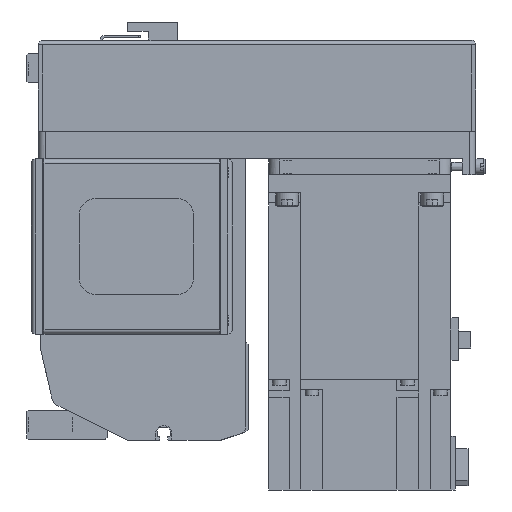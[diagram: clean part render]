
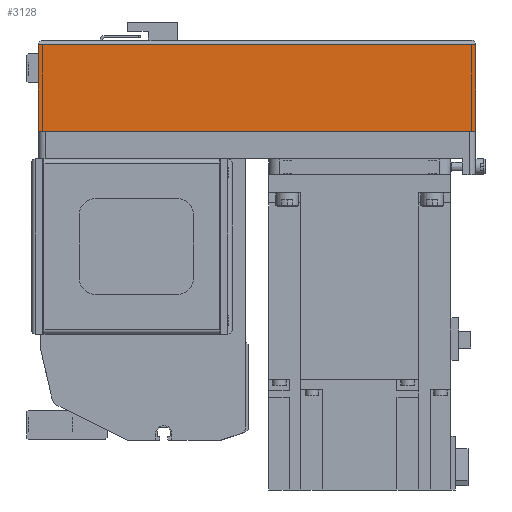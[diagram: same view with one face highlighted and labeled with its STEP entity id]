
A CAD part, left-side view. The second image highlights one B-rep face of the part: STEP entity #3128.
In plain terms, the highlighted planar face has unit normal (-1, 0, 0) as drawn and (0, -1, 0) by its records, which use the part's own axes.
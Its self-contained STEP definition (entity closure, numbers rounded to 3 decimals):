
#3128 = ADVANCED_FACE( '', ( #6524 ), #6525, .T. );
#6524 = FACE_OUTER_BOUND( '', #9956, .T. );
#6525 = PLANE( '', #9957 );
#9956 = EDGE_LOOP( '', ( #18788, #18789, #18790, #18791 ) );
#9957 = AXIS2_PLACEMENT_3D( '', #18792, #18793, #18794 );
#18788 = ORIENTED_EDGE( '', *, *, #22200, .F. );
#18789 = ORIENTED_EDGE( '', *, *, #22733, .F. );
#18790 = ORIENTED_EDGE( '', *, *, #22425, .T. );
#18791 = ORIENTED_EDGE( '', *, *, #21854, .T. );
#18792 = CARTESIAN_POINT( '', ( -192., -40., -12.1 ) );
#18793 = DIRECTION( '', ( 0., -1., 0. ) );
#18794 = DIRECTION( '', ( 0., 0., -1. ) );
#21854 = EDGE_CURVE( '', #23542, #24645, #26953, .T. );
#22200 = EDGE_CURVE( '', #23169, #24645, #27399, .T. );
#22425 = EDGE_CURVE( '', #25260, #23542, #27687, .T. );
#22733 = EDGE_CURVE( '', #25260, #23169, #28050, .T. );
#23169 = VERTEX_POINT( '', #28572 );
#23542 = VERTEX_POINT( '', #29064 );
#24645 = VERTEX_POINT( '', #30639 );
#25260 = VERTEX_POINT( '', #31590 );
#26953 = LINE( '', #34045, #34046 );
#27399 = LINE( '', #34696, #34697 );
#27687 = LINE( '', #35178, #35179 );
#28050 = LINE( '', #35893, #35894 );
#28572 = CARTESIAN_POINT( '', ( 0., -40., -12.1 ) );
#29064 = CARTESIAN_POINT( '', ( -192., -40., -50. ) );
#30639 = CARTESIAN_POINT( '', ( 0., -40., -50. ) );
#31590 = CARTESIAN_POINT( '', ( -192., -40., -12.1 ) );
#34045 = CARTESIAN_POINT( '', ( -192., -40., -50. ) );
#34046 = VECTOR( '', #39535, 1000. );
#34696 = CARTESIAN_POINT( '', ( 0., -40., -12.1 ) );
#34697 = VECTOR( '', #39872, 1000. );
#35178 = CARTESIAN_POINT( '', ( -192., -40., -12.1 ) );
#35179 = VECTOR( '', #40087, 1000. );
#35893 = CARTESIAN_POINT( '', ( -192., -40., -12.1 ) );
#35894 = VECTOR( '', #40349, 1000. );
#39535 = DIRECTION( '', ( 1., 0., 0. ) );
#39872 = DIRECTION( '', ( 0., 0., -1. ) );
#40087 = DIRECTION( '', ( 0., 0., -1. ) );
#40349 = DIRECTION( '', ( 1., 0., 0. ) );
